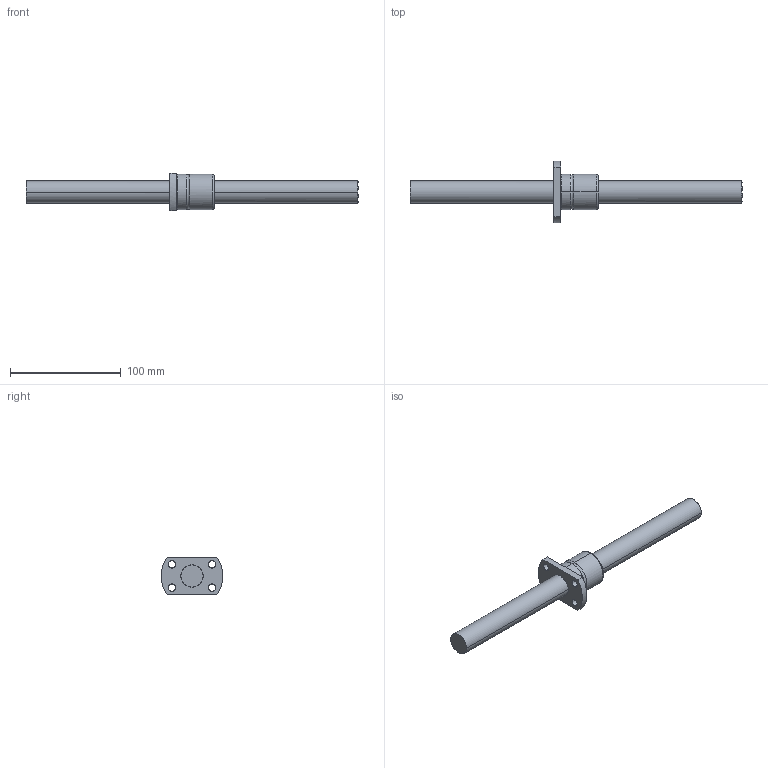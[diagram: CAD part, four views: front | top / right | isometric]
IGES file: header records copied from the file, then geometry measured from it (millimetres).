
Global section: file name: No Iges File Name specified; native system: AutoDesk Inventor R10; preprocessor: AutoDesk Inventor Iges Exporter R10; author: No Author specified; organization: No Organization specified; date: 20101224.154111; units: millimetre
Bounding box: 300 x 55.97 x 34 mm (x, y, z)
Surface area: 29497 mm2 (no closed solid volume)
Topology: 0 solids, 0 shells, 33 faces, 237 edges, 237 vertices
Faces by surface type: bspline 33
